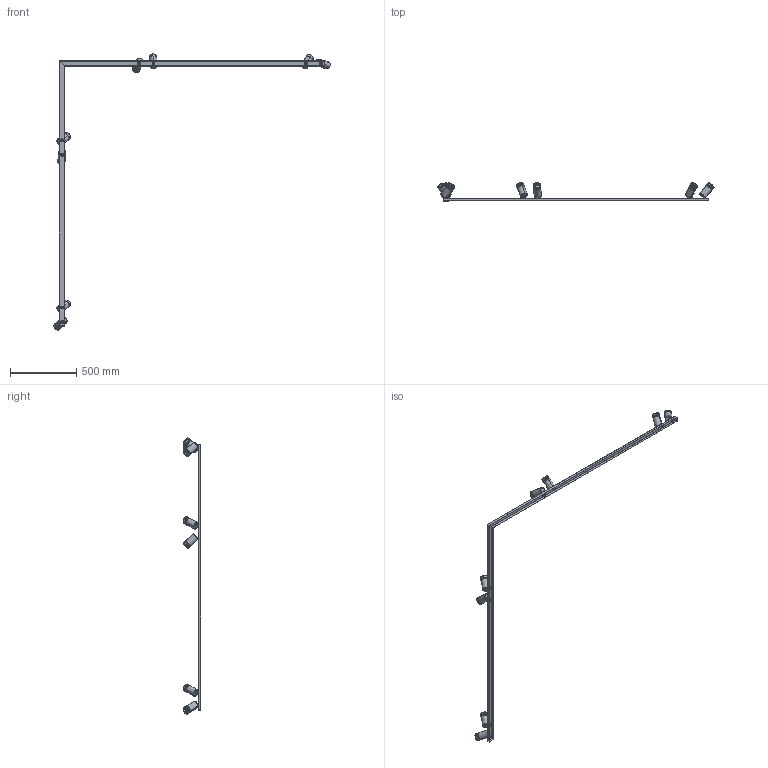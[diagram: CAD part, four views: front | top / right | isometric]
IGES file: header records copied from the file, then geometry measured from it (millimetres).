
Start section: SolidWorks IGES file using analytic representation for surfaces
Global section: file name: Z:\Modele 3D_WWW\_KOLEKCJE_WWW\MONO\MONO-CORNER\MONO-CORNER-VIII-2X200-GOLD-7697-7702\Z｣OZENIE MONO-CORNER-VIII-2X200-GOLD-7697-7702.IGS; native system: SolidWorks 2021; preprocessor: SolidWorks 2021; author: gabriela.tworek; date: 210820.140237; units: millimetre
Bounding box: 2081.23 x 135.44 x 2080.77 mm (x, y, z)
Surface area: 1088561.1 mm2 (no closed solid volume)
Topology: 0 solids, 0 shells, 1654 faces, 27969 edges, 27965 vertices
Faces by surface type: revolution 980, bspline 674
